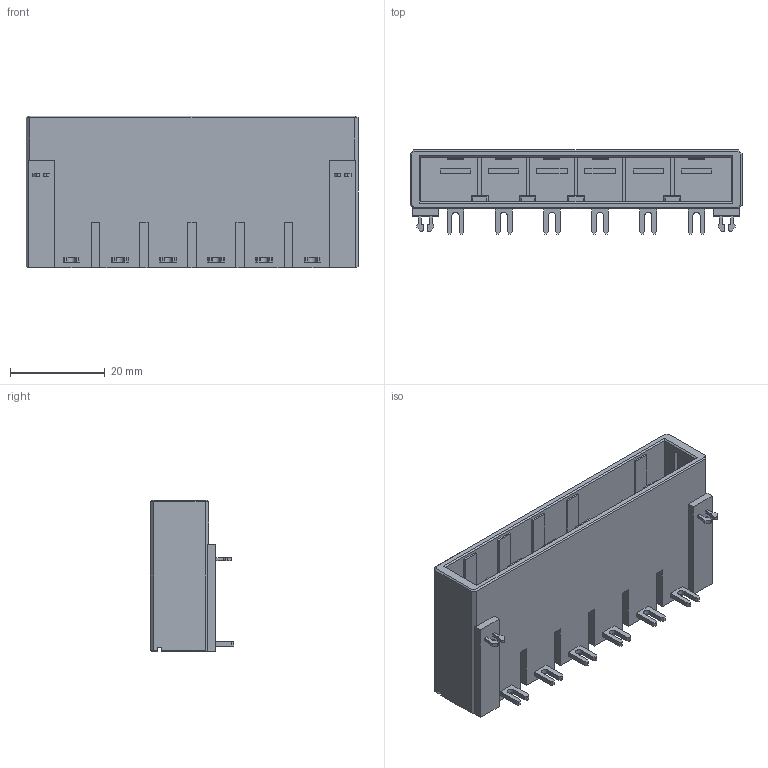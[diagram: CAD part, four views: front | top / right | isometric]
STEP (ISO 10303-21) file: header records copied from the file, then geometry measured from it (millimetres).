
FILE_DESCRIPTION((''),'2;1');
FILE_NAME('C-2-179959-3','2008-01-07T',('workeradm'),('Tyco Electronics Corporation'),'PRO/ENGINEER BY PARAMETRIC TECHNOLOGY CORPORATION, 2005450','PRO/ENGINEER BY PARAMETRIC TECHNOLOGY CORPORATION, 2005450','');
FILE_SCHEMA(('CONFIG_CONTROL_DESIGN', 'GEOMETRIC_VALIDATION_PROPERTIES_MIM'));
Length unit declared in the file: millimetre
Products named in the file (1): C-2-179959-3
Bounding box: 70 x 17.7 x 32 mm (x, y, z)
Volume: 15510.1 mm3; surface area: 14010.7 mm2
Topology: 1 solids, 1 shells, 328 faces, 903 edges, 594 vertices
Faces by surface type: plane 310, cylinder 18
Entity records: 10340 total; most frequent: CARTESIAN_POINT 1826, ORIENTED_EDGE 1806, DIRECTION 1595, EDGE_CURVE 903, VECTOR 867, LINE 867, VERTEX_POINT 594, AXIS2_PLACEMENT_3D 364
